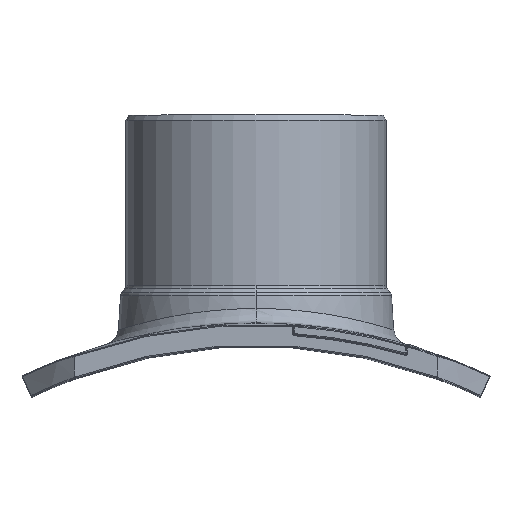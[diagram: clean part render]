
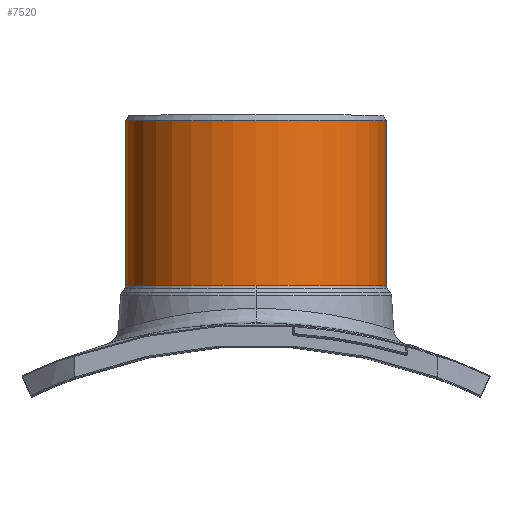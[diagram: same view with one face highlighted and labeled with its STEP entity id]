
A CAD part, top view. The second image highlights one B-rep face of the part: STEP entity #7520.
In plain terms, the highlighted cylindrical face has radius 125 mm (diameter 250 mm), a partial arc.
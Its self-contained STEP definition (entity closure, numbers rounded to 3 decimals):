
#1533=CARTESIAN_POINT('',(0.,558.122,0.));
#1534=DIRECTION('',(0.,-1.,0.));
#1535=DIRECTION('',(1.,0.,0.));
#1536=AXIS2_PLACEMENT_3D('',#1533,#1534,#1535);
#1541=CARTESIAN_POINT('',(0.,558.122,0.));
#1542=DIRECTION('',(0.,-1.,0.));
#1543=DIRECTION('',(0.,0.,1.));
#1544=AXIS2_PLACEMENT_3D('',#1541,#1542,#1543);
#1549=DIRECTION('',(0.,-1.,0.));
#1550=VECTOR('',#1549,158.878);
#1551=CARTESIAN_POINT('',(-125.,717.,0.));
#1552=LINE('151588',#1551,#1550);
#1556=DIRECTION('',(0.,-1.,0.));
#1557=VECTOR('',#1556,158.878);
#1558=CARTESIAN_POINT('',(125.,717.,0.));
#1559=LINE('151587',#1558,#1557);
#1610=CARTESIAN_POINT('',(0.,717.,0.));
#1611=DIRECTION('',(0.,1.,0.));
#1612=DIRECTION('',(-1.,0.,0.));
#1613=AXIS2_PLACEMENT_3D('',#1610,#1611,#1612);
#5947=CARTESIAN_POINT('',(125.,717.,0.));
#5948=CARTESIAN_POINT('',(-125.,717.,0.));
#5949=VERTEX_POINT('',#5947);
#5950=VERTEX_POINT('',#5948);
#5971=CARTESIAN_POINT('',(125.,558.122,0.));
#5972=CARTESIAN_POINT('',(0.,558.122,125.));
#5973=VERTEX_POINT('',#5971);
#5974=VERTEX_POINT('',#5972);
#5975=CARTESIAN_POINT('',(-125.,558.122,0.));
#5976=VERTEX_POINT('',#5975);
#7505=CARTESIAN_POINT('',(0.,722.,0.));
#7506=DIRECTION('',(0.,1.,0.));
#7507=DIRECTION('',(1.,0.,0.));
#7508=AXIS2_PLACEMENT_3D('',#7505,#7506,#7507);
#7509=CYLINDRICAL_SURFACE('4584',#7508,125.);
#7510=ORIENTED_EDGE('151579',*,*,#7482,.T.);
#7511=ORIENTED_EDGE('151581',*,*,#7497,.T.);
#7513=ORIENTED_EDGE('151588',*,*,#7512,.F.);
#7515=ORIENTED_EDGE('4600',*,*,#7514,.T.);
#7517=ORIENTED_EDGE('151587',*,*,#7516,.T.);
#7518=EDGE_LOOP('4584',(#7510,#7511,#7513,#7515,#7517));
#7519=FACE_OUTER_BOUND('4584',#7518,.F.);
#1537=CIRCLE('151579',#1536,125.);
#1545=CIRCLE('151581',#1544,125.);
#1614=CIRCLE('4600',#1613,125.);
#7482=EDGE_CURVE('151579',#5973,#5974,#1537,.T.);
#7497=EDGE_CURVE('151581',#5974,#5976,#1545,.T.);
#7512=EDGE_CURVE('151588',#5950,#5976,#1552,.T.);
#7514=EDGE_CURVE('4600',#5950,#5949,#1614,.T.);
#7516=EDGE_CURVE('151587',#5949,#5973,#1559,.T.);
#7520=ADVANCED_FACE('4584',(#7519),#7509,.T.);
